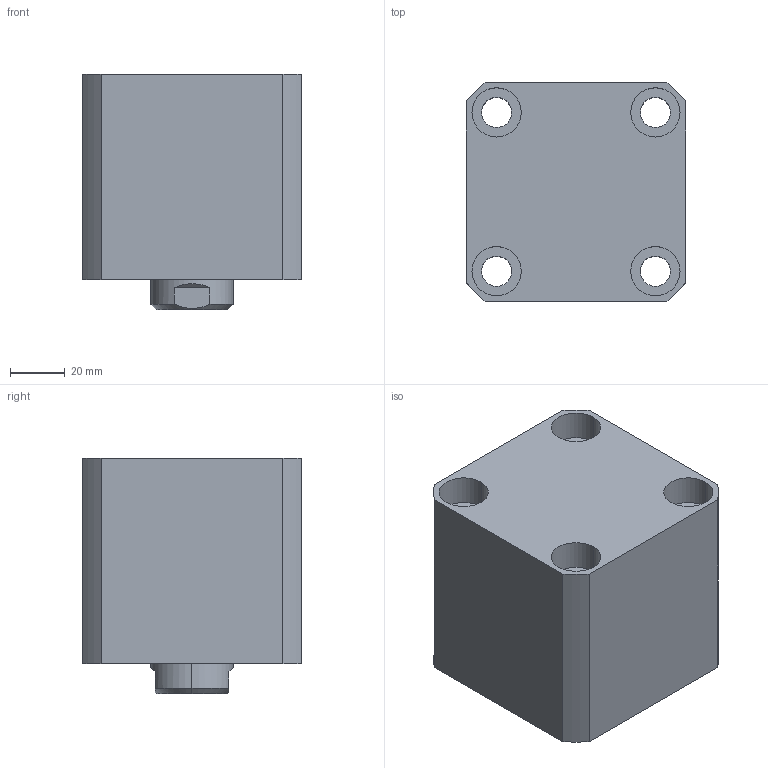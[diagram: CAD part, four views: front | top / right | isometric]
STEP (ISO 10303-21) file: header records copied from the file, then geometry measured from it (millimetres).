
FILE_DESCRIPTION (( 'STEP AP203' ), '1' );
FILE_NAME ('CHTB-SD50-15N.STEP', '2018-05-18T11:42:33', ( '' ), ( '' ), 'SwSTEP 2.0', 'SolidWorks 2015', '' );
FILE_SCHEMA (( 'CONFIG_CONTROL_DESIGN' ));
Length unit declared in the file: millimetre
Products named in the file (4): 活塞杆SD50-15N; CHTM-SD50QG; CHTB-SD50-15N; 掛极SD50-15N
Assembly tree (3 placements, depth 2):
  CHTB-SD50-15N
    掛极SD50-15N
    活塞杆SD50-15N
    CHTM-SD50QG
Bounding box: 80 x 80 x 86 mm (x, y, z)
Volume: 405424.6 mm3; surface area: 88826 mm2
Topology: 3 solids, 3 shells, 194 faces, 499 edges, 330 vertices
Faces by surface type: cylinder 104, plane 39, cone 21, torus 16, bspline 14
Entity records: 10789 total; most frequent: CARTESIAN_POINT 5840, ORIENTED_EDGE 986, DIRECTION 914, EDGE_CURVE 493, AXIS2_PLACEMENT_3D 383, VERTEX_POINT 330, EDGE_LOOP 233, CIRCLE 197
